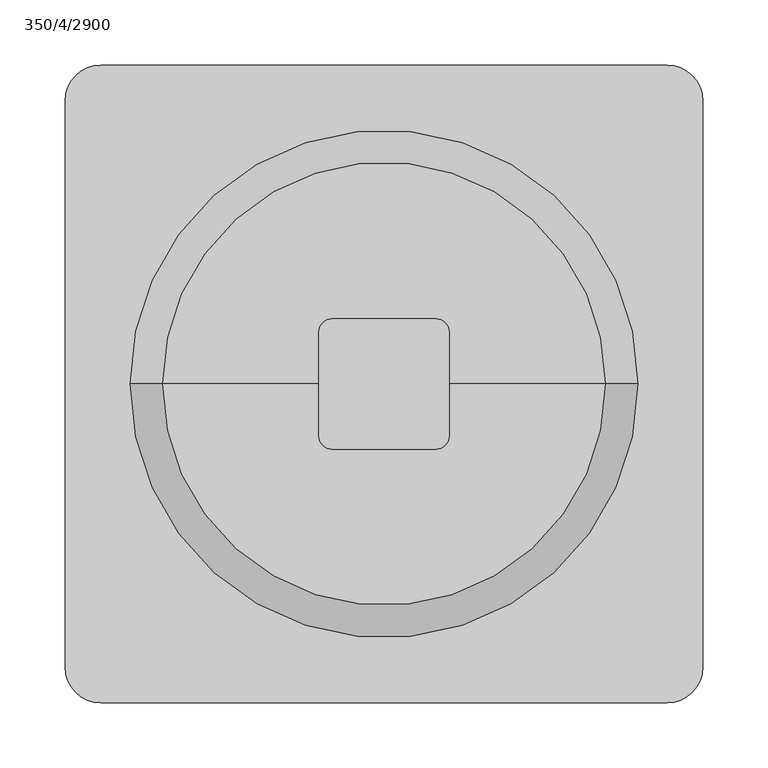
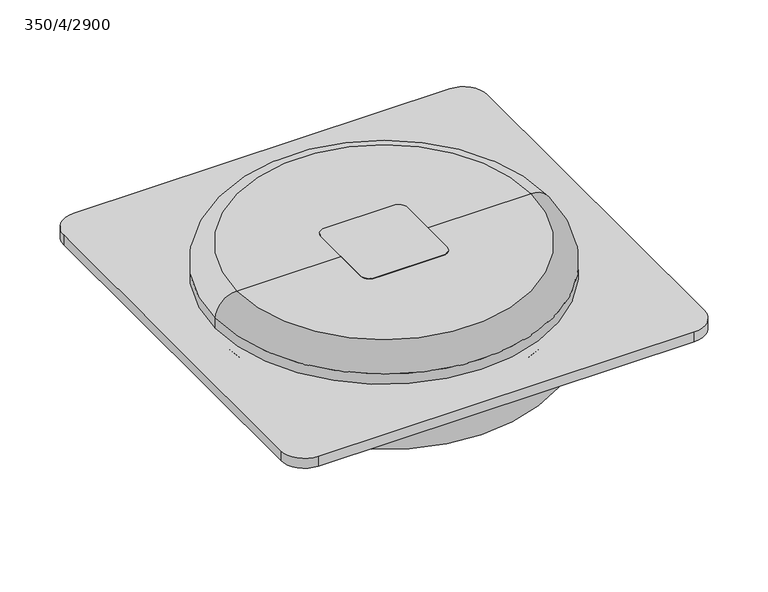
"""IFC4 building model written with IfcOpenShell, lengths in millimetres: unitary equipment geometry, VE-Wentylator-ParaForma-Harmann-SHARK-Wywiewny : 350/4/2900."""

from ifc_helpers import new_model, si_unit, point, frame, frame_2d, origin, origin_with_axes, origin_2d, place, context, project, spatial, polyline, circle_curve, ellipse_curve, trimmed, segment, composite_curve, outline, extrude, source, transform, mapped, element, save
from ifc_brep_helpers import plane_surface, cylinder_surface, revolved_surface, advanced_brep


def unitary_equipment_350_4_2900_2d044086(model_context):
    return source(origin(), model_context, "Body", "SolidModel", [
        advanced_brep(
        [(195.0, 0.0, 12.0), (-195.0, 0.0, 12.0), (0.0, 0.0, 12.0), (195.0, 0.0, 24.3333333), (-195.0, 0.0, 24.3333333), (170.3333333, 0.0, 49.0), (-170.3333333, 0.0, 49.0), (0.0, 0.0, 49.0)],
        [
            (0, 1, circle_curve(frame((0.0, 0.0, 12.0), z_axis=(0.0, 0.0, -1.0), x_axis=(-1.0000000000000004, 0.0, 0.0)), 195.0)),
            (1, 2),
            (2, 0),
            (1, 0, circle_curve(frame((0.0, 0.0, 12.0), z_axis=(0.0, 0.0, -1.0), x_axis=(-1.0000000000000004, 0.0, 0.0)), 195.0)),
            (3, 4, circle_curve(frame((0.0, 0.0, 24.3333333), z_axis=(0.0, 0.0, -1.0), x_axis=(-1.0000000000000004, 0.0, 0.0)), 195.0)),
            (4, 1),
            (0, 3),
            (4, 3, circle_curve(frame((0.0, 0.0, 24.3333333), z_axis=(0.0, 0.0, -1.0), x_axis=(-1.0000000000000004, 0.0, 0.0)), 195.0)),
            (5, 6, circle_curve(frame((0.0, 0.0, 49.0), z_axis=(0.0, 0.0, -1.0), x_axis=(-1.0000000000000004, 0.0, 0.0)), 170.3333333)),
            (6, 4, circle_curve(frame((-170.3333333, 0.0, 24.3333333), z_axis=(0.0, -1.0000000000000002, 0.0), x_axis=(0.0, 0.0, -1.0000000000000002)), 24.6666667)),
            (3, 5, circle_curve(frame((170.3333333, 0.0, 24.3333333), z_axis=(0.0, -1.0000000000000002, 0.0), x_axis=(0.0, 0.0, -1.0000000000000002)), 24.6666667)),
            (6, 5, circle_curve(frame((0.0, 0.0, 49.0), z_axis=(0.0, 0.0, -1.0), x_axis=(-1.0000000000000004, 0.0, 0.0)), 170.3333333)),
            (7, 6),
            (5, 7),
        ],
        [
            plane_surface(frame((0.0, 0.0, 12.0), z_axis=(0.0, 0.0, -1.0), x_axis=(-1.0, 0.0, 0.0))),
            cylinder_surface(frame((0.0, 0.0, 49.0), z_axis=(0.0, 0.0, 1.0000000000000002), x_axis=(-1.0000000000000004, 0.0, 0.0)), 195.0),
            revolved_surface(trimmed(ellipse_curve(frame((-170.3333333, 0.0, 24.3333333), z_axis=(0.0, 1.0000000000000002, 0.0), x_axis=(0.0, 0.0, -1.0000000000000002)), 24.6666667, 24.6666667), [point((-195.0, 0.0, 24.3333333))], [point((-170.3333333, 0.0, 49.0))], True, "CARTESIAN"), (0.0, 0.0, 49.0), (0.0, 0.0, 1.0000000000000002)),
            plane_surface(frame((0.0, 0.0, 49.0), z_axis=(0.0, 0.0, 1.0), x_axis=(-1.0, 0.0, 0.0))),
        ],
        [
            (0, [[1, 2, 3]]),
            (0, [[4, -3, -2]]),
            (1, [[5, 6, -1, 7]]),
            (1, [[8, -7, -4, -6]]),
            (2, [[9, 10, -5, 11]]),
            (2, [[12, -11, -8, -10]]),
            (3, [[13, -9, 14]]),
            (3, [[-14, -12, -13]]),
        ],
    ),
        extrude(outline(composite_curve([segment(trimmed(circle_curve(origin_2d(), 50.0), [point((50.0, 0.0))], [point((-50.0, 0.0))], False, "CARTESIAN"), True, "CONTINUOUS"), segment(trimmed(circle_curve(origin_2d(), 50.0), [point((-50.0, 0.0))], [point((50.0, 0.0))], False, "CARTESIAN"), True, "CONTINUOUS")], self_intersect=False)), frame((0.0, 0.0, -83.0), z_axis=(0.0, 0.0, 1.0), x_axis=(1.0, 0.0, 0.0)), (0.0, 0.0, 1.0), 15.0),
        advanced_brep(
        [(0.0, 0.0, 0.0), (-196.0, 0.0, 0.0), (196.0, 0.0, 0.0), (195.0, 0.0, -68.0), (-195.0, 0.0, -68.0), (0.0, 0.0, -68.0), (195.0, 0.0, -1.0), (-195.0, 0.0, -1.0)],
        [
            (0, 1),
            (1, 2, circle_curve(frame((0.0, 0.0, 0.0), z_axis=(0.0, 0.0, 1.0), x_axis=(-1.0000000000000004, 0.0, 0.0)), 196.0)),
            (2, 0),
            (2, 1, circle_curve(frame((0.0, 0.0, 0.0), z_axis=(0.0, 0.0, 1.0), x_axis=(-1.0000000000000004, 0.0, 0.0)), 196.0)),
            (3, 4, circle_curve(frame((0.0, 0.0, -68.0), z_axis=(0.0, 0.0, -1.0), x_axis=(-1.0000000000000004, 0.0, 0.0)), 195.0)),
            (4, 5),
            (5, 3),
            (4, 3, circle_curve(frame((0.0, 0.0, -68.0), z_axis=(0.0, 0.0, -1.0), x_axis=(-1.0000000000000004, 0.0, 0.0)), 195.0)),
            (6, 7, circle_curve(frame((0.0, 0.0, -1.0), z_axis=(0.0, 0.0, -1.0), x_axis=(-1.0000000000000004, 0.0, 0.0)), 195.0)),
            (7, 4),
            (3, 6),
            (7, 6, circle_curve(frame((0.0, 0.0, -1.0), z_axis=(0.0, 0.0, -1.0), x_axis=(-1.0000000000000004, 0.0, 0.0)), 195.0)),
            (1, 7, circle_curve(frame((-196.0, 0.0, -1.0), z_axis=(0.0, 1.0000000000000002, 0.0), x_axis=(0.0, 0.0, -1.0000000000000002)), 1.0)),
            (6, 2, circle_curve(frame((196.0, 0.0, -1.0), z_axis=(0.0, 1.0000000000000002, 0.0), x_axis=(0.0, 0.0, -1.0000000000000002)), 1.0)),
        ],
        [
            plane_surface(frame((0.0, 0.0, 0.0), z_axis=(0.0, 0.0, 1.0), x_axis=(-1.0, 0.0, 0.0))),
            plane_surface(frame((0.0, 0.0, -68.0), z_axis=(0.0, 0.0, -1.0), x_axis=(-1.0, 0.0, 0.0))),
            cylinder_surface(frame((0.0, 0.0, 0.0), z_axis=(0.0, 0.0, 1.0000000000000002), x_axis=(-1.0000000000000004, 0.0, 0.0)), 195.0),
            revolved_surface(trimmed(ellipse_curve(frame((-196.0, 0.0, -1.0), z_axis=(0.0, -1.0000000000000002, 0.0), x_axis=(0.0, 0.0, -1.0000000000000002)), 1.0, 1.0), [point((-195.0, 0.0, -1.0))], [point((-196.0, 0.0, 0.0))], True, "CARTESIAN"), (0.0, 0.0, 0.0), (0.0, 0.0, 1.0000000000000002)),
        ],
        [
            (0, [[1, 2, 3]]),
            (0, [[-3, 4, -1]]),
            (1, [[5, 6, 7]]),
            (1, [[8, -7, -6]]),
            (2, [[9, 10, -5, 11]]),
            (2, [[12, -11, -8, -10]]),
            (3, [[-2, 13, -9, 14]]),
            (3, [[-4, -14, -12, -13]]),
        ],
    ),
        extrude(outline(composite_curve([segment(polyline([(40.0, -50.0), (-40.0, -50.0)]), True, "CONTINUOUS"), segment(trimmed(circle_curve(frame_2d((-40.0, -40.0)), 10.0), [point((-40.0, -50.0))], [point((-50.0, -40.0))], False, "CARTESIAN"), True, "CONTINUOUS"), segment(polyline([(-50.0, -40.0), (-50.0, 40.0)]), True, "CONTINUOUS"), segment(trimmed(circle_curve(frame_2d((-40.0, 40.0)), 10.0), [point((-50.0, 40.0))], [point((-40.0, 50.0))], False, "CARTESIAN"), True, "CONTINUOUS"), segment(polyline([(-40.0, 50.0), (40.0, 50.0)]), True, "CONTINUOUS"), segment(trimmed(circle_curve(frame_2d((40.0, 40.0)), 10.0), [point((40.0, 50.0))], [point((50.0, 40.0))], False, "CARTESIAN"), True, "CONTINUOUS"), segment(polyline([(50.0, 40.0), (50.0, -40.0)]), True, "CONTINUOUS"), segment(trimmed(circle_curve(frame_2d((40.0, -40.0)), 10.0), [point((50.0, -40.0))], [point((40.0, -50.0))], False, "CARTESIAN"), True, "CONTINUOUS")], self_intersect=False)), frame((0.0, 0.0, 49.0), z_axis=(0.0, 0.0, 1.0), x_axis=(1.0, 0.0, 0.0)), (0.0, 0.0, 1.0), 1.0),
        extrude(outline(composite_curve([segment(polyline([(217.5, -245.0), (-217.5, -245.0)]), True, "CONTINUOUS"), segment(trimmed(circle_curve(frame_2d((-217.5, -217.5)), 27.5), [point((-217.5, -245.0))], [point((-245.0, -217.5))], False, "CARTESIAN"), True, "CONTINUOUS"), segment(polyline([(-245.0, -217.5), (-245.0, 217.5)]), True, "CONTINUOUS"), segment(trimmed(circle_curve(frame_2d((-217.5, 217.5)), 27.5), [point((-245.0, 217.5))], [point((-217.5, 245.0))], False, "CARTESIAN"), True, "CONTINUOUS"), segment(polyline([(-217.5, 245.0), (217.5, 245.0)]), True, "CONTINUOUS"), segment(trimmed(circle_curve(frame_2d((217.5, 217.5)), 27.5), [point((217.5, 245.0))], [point((245.0, 217.5))], False, "CARTESIAN"), True, "CONTINUOUS"), segment(polyline([(245.0, 217.5), (245.0, -217.5)]), True, "CONTINUOUS"), segment(trimmed(circle_curve(frame_2d((217.5, -217.5)), 27.5), [point((245.0, -217.5))], [point((217.5, -245.0))], False, "CARTESIAN"), True, "CONTINUOUS")], self_intersect=False)), origin_with_axes(), (0.0, 0.0, 1.0), 12.0),
    ])


if __name__ == "__main__":
    model = new_model("IFC4")
    model_context = context("Model", 3, world=origin())
    ifc_project = project(units=[si_unit("LENGTHUNIT", "METRE", prefix="MILLI")], contexts=[model_context])
    site = spatial("IfcSite", under=ifc_project)
    building = spatial("IfcBuilding", under=site)
    placement = place(None, origin())
    unitary_equipment_350_4_2900_shape = unitary_equipment_350_4_2900_2d044086(model_context)
    element("IfcUnitaryEquipment", 1, ObjectType="VE-Wentylator-ParaForma-Harmann-SHARK-Wywiewny : 350/4/2900", at=placement, inside=building, context=model_context, shape_type="MappedRepresentation", body=[
        mapped(unitary_equipment_350_4_2900_shape, transform((0.0, 0.0, 0.0), x_axis=(1.0, 0.0, 0.0), y_axis=(0.0, 1.0, 0.0), z_axis=(0.0, 0.0, 1.0))),
    ])
    save(model, "model.ifc")
